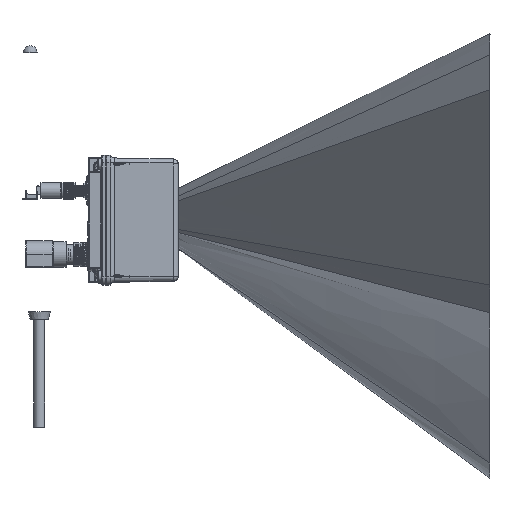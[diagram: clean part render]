
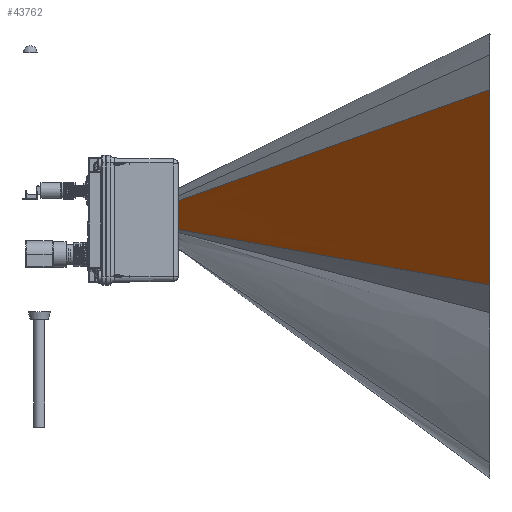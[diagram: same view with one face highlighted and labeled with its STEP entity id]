
A CAD part, top view. The second image highlights one B-rep face of the part: STEP entity #43762.
In plain terms, the highlighted free-form (B-spline) face has degree [3, 3] with [4, 4] control points.
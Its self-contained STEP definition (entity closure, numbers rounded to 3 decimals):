
#461=B_SPLINE_SURFACE_WITH_KNOTS('',3,3,((#137350,#137351,#137352,#137353),
(#137354,#137355,#137356,#137357),(#137358,#137359,#137360,#137361),(#137362,
#137363,#137364,#137365)),.UNSPECIFIED.,.F.,.F.,.F.,(4,4),(4,4),(0.,1.),
(0.,1.),.UNSPECIFIED.);
#6219=FACE_OUTER_BOUND('',#8799,.T.);
#8799=EDGE_LOOP('',(#38297,#38298,#38299,#38300));
#10862=LINE('',#137279,#12933);
#10869=LINE('',#137327,#12940);
#10870=LINE('',#137349,#12941);
#10871=LINE('',#137366,#12942);
#12933=VECTOR('',#59808,10.);
#12940=VECTOR('',#59831,10.);
#12941=VECTOR('',#59832,319.208);
#12942=VECTOR('',#59833,310.906);
#19436=VERTEX_POINT('',#137276);
#19437=VERTEX_POINT('',#137278);
#19452=VERTEX_POINT('',#137324);
#19453=VERTEX_POINT('',#137326);
#25719=EDGE_CURVE('',#19436,#19437,#10862,.T.);
#25736=EDGE_CURVE('',#19453,#19452,#10869,.T.);
#25738=EDGE_CURVE('',#19453,#19436,#10870,.T.);
#25739=EDGE_CURVE('',#19452,#19437,#10871,.T.);
#38297=ORIENTED_EDGE('',*,*,#25736,.T.);
#38298=ORIENTED_EDGE('',*,*,#25739,.T.);
#38299=ORIENTED_EDGE('',*,*,#25719,.F.);
#38300=ORIENTED_EDGE('',*,*,#25738,.F.);
#43762=ADVANCED_FACE('',(#6219),#461,.T.);
#59808=DIRECTION('',(0.,-0.999,-0.035));
#59831=DIRECTION('',(0.,-1.,-0.013));
#59832=DIRECTION('',(0.595,0.211,0.775));
#59833=DIRECTION('',(0.611,-0.11,0.784));
#137276=CARTESIAN_POINT('',(200.,75.,269.));
#137278=CARTESIAN_POINT('',(200.,-38.,265.054));
#137279=CARTESIAN_POINT('',(200.,75.,269.));
#137324=CARTESIAN_POINT('',(10.,-3.781,21.351));
#137326=CARTESIAN_POINT('',(10.,7.639,21.5));
#137327=CARTESIAN_POINT('',(10.,7.639,21.5));
#137349=CARTESIAN_POINT('',(10.,7.639,21.5));
#137350=CARTESIAN_POINT('Ctrl Pts',(10.,7.639,21.5));
#137351=CARTESIAN_POINT('Ctrl Pts',(73.333,30.093,104.));
#137352=CARTESIAN_POINT('Ctrl Pts',(136.667,52.546,186.5));
#137353=CARTESIAN_POINT('Ctrl Pts',(200.,75.,269.));
#137354=CARTESIAN_POINT('Ctrl Pts',(10.,3.832,21.45));
#137355=CARTESIAN_POINT('Ctrl Pts',(73.333,14.999,103.528));
#137356=CARTESIAN_POINT('Ctrl Pts',(136.667,26.166,185.606));
#137357=CARTESIAN_POINT('Ctrl Pts',(200.,37.333,267.685));
#137358=CARTESIAN_POINT('Ctrl Pts',(10.,0.026,21.4));
#137359=CARTESIAN_POINT('Ctrl Pts',(73.333,-0.094,
103.057));
#137360=CARTESIAN_POINT('Ctrl Pts',(136.667,-0.214,
184.713));
#137361=CARTESIAN_POINT('Ctrl Pts',(200.,-0.333,266.369));
#137362=CARTESIAN_POINT('Ctrl Pts',(10.,-3.781,21.351));
#137363=CARTESIAN_POINT('Ctrl Pts',(73.333,-15.187,
102.585));
#137364=CARTESIAN_POINT('Ctrl Pts',(136.667,-26.594,
183.819));
#137365=CARTESIAN_POINT('Ctrl Pts',(200.,-38.,265.054));
#137366=CARTESIAN_POINT('',(10.,-3.781,21.351));
